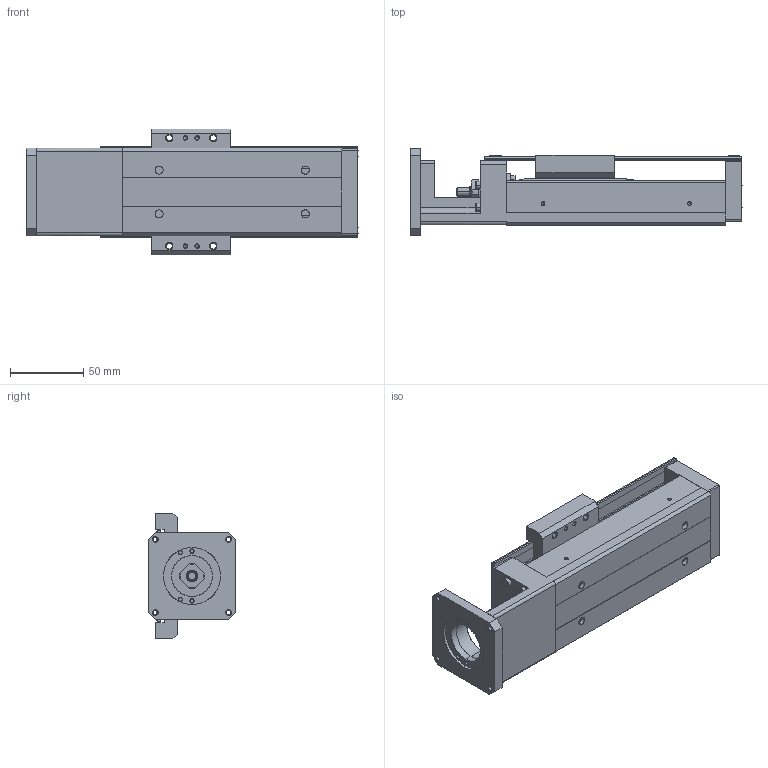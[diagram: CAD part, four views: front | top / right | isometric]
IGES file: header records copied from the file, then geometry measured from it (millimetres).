
Start section: SolidWorks IGES file using analytic representation for surfaces
Global section: file name: C:\Users\render\Documents\CAD Files\Integrated-Actuators\PA-Series\PA33\PA-33-150-23X.IGS; native system: SolidWorks 2009; preprocessor: SolidWorks 2009; author: render; date: 100610.111549; units: millimetre
Bounding box: 227 x 60 x 86 mm (x, y, z)
Surface area: 128439 mm2 (no closed solid volume)
Topology: 0 solids, 0 shells, 692 faces, 8611 edges, 8573 vertices
Faces by surface type: revolution 377, bspline 315
